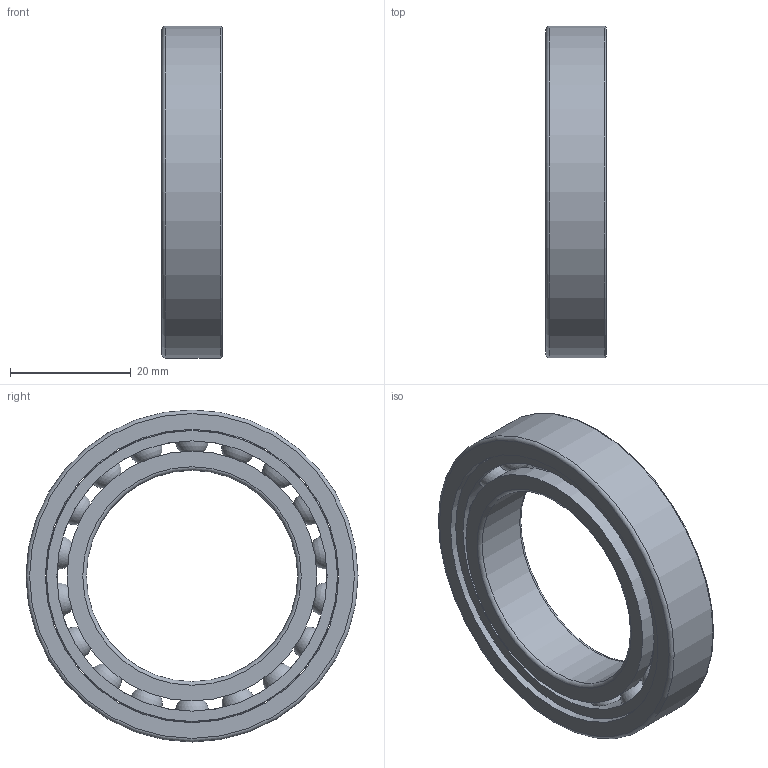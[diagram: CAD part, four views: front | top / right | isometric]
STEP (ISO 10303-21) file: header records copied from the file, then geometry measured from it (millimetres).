
FILE_DESCRIPTION(/* description */ (''),/* implementation_level */ '2;1');
FILE_NAME(/* name */ 'S_61907_TA.step',/* time_stamp */ '2013-03-06T14:48:33+01:00',/* author */ ('Marian'),/* organization */ ('GMN'),/* preprocessor_version */ 'ST-DEVELOPER v11',/* originating_system */ 'SIEMENS UGS NX 6.0',/* authorisation */ '');
FILE_SCHEMA (('CONFIG_CONTROL_DESIGN'));
Length unit declared in the file: millimetre
Products named in the file (1): S_61907_TA
Bounding box: 10 x 55 x 55 mm (x, y, z)
Volume: 10525 mm3; surface area: 11542.3 mm2
Topology: 21 solids, 21 shells, 56 faces, 146 edges, 94 vertices
Faces by surface type: cylinder 25, sphere 18, torus 6, plane 6, cone 1
Full cylindrical faces by diameter (mm): 5.756 x18, 35 x1, 41.4 x2, 44.776 x1, 48.2 x1, 48.6 x1, 55 x1
Entity records: 3270 total; most frequent: CARTESIAN_POINT 2239, DIRECTION 154, FACE_BOUND 130, EDGE_LOOP 112, ORIENTED_EDGE 112, AXIS2_PLACEMENT_3D 77, VERTEX_POINT 74, EDGE_CURVE 56
